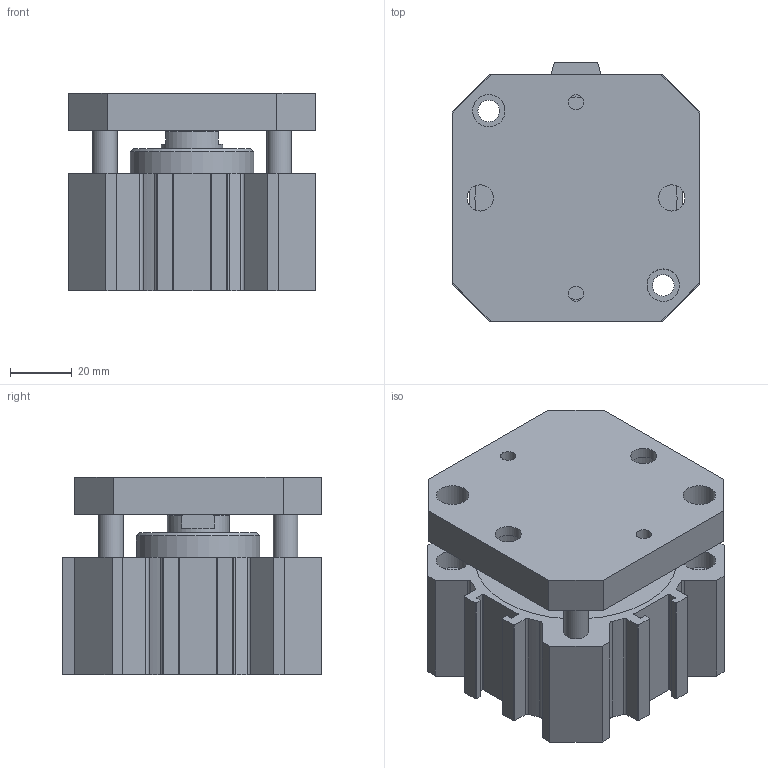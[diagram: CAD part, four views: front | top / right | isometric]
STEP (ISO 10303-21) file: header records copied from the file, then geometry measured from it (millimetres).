
FILE_DESCRIPTION(/* description */ ('TUBO PROFILATO COMPATTI Ø40'),/* implementation_level */ '2;1');
FILE_NAME(/* name */ 'I:\Area Tecnica\Disegni\VARIE-3D\Componenti\1500\Ø63\15##_63_####_#\1501_63_0000_AR.stp',/* time_stamp */ '2016-08-24T13:51:33+02:00',/* author */ ('Maniean1'),/* organization */ ('Pneumax S.p.A.'),/* preprocessor_version */ 'ST-DEVELOPER v15.2',/* originating_system */ 'Autodesk Inventor 2014',/* authorisation */ '');
FILE_SCHEMA (('AUTOMOTIVE_DESIGN { 1 0 10303 214 3 1 1 }'));
Length unit declared in the file: millimetre
Products named in the file (3): C_1501_63_0000_AR; S_1501_63_0000_AR; 1501_63_0000_AR
Bounding box: 80 x 84 x 64 mm (x, y, z)
Volume: 269271.7 mm3; surface area: 71332.2 mm2
Topology: 2 solids, 2 shells, 185 faces, 481 edges, 322 vertices
Faces by surface type: plane 94, cylinder 86, cone 5
Full cylindrical faces by diameter (mm): 4.917 x2, 7 x4, 8 x4, 8.5 x2, 8.566 x2, 10.5 x8, 13.5 x2, 20 x2, 40 x2, 63 x2, 65.5 x2
Entity records: 5739 total; most frequent: DIRECTION 994, CARTESIAN_POINT 950, ORIENTED_EDGE 876, EDGE_CURVE 438, AXIS2_PLACEMENT_3D 370, VERTEX_POINT 314, EDGE_LOOP 262, LINE 254
